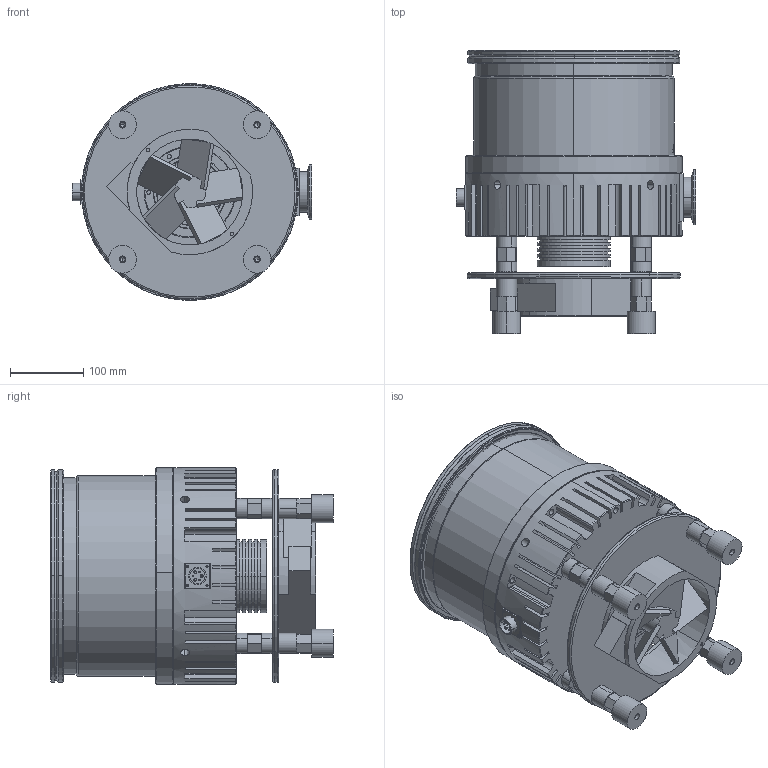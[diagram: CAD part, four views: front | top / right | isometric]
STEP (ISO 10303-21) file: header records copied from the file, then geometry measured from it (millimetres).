
FILE_DESCRIPTION (( 'STEP AP203' ), '1' );
FILE_NAME ('ISO-2000JFZ-00W.STEP', '2025-03-29T08:45:51', ( 'User' ), ( 'China' ), 'SwSTEP 2.0', 'SolidWorks 2016', '' );
FILE_SCHEMA (( 'CONFIG_CONTROL_DESIGN' ));
Length unit declared in the file: millimetre
Products named in the file (17): JTFB2000JZ-01-01-02T; JTFB2000JZ-01-01-01T; JTFB2000JZ-01-01-00T; JTFB1600J-18-02_1; JTFB2000JZ-01-00T; JTFB1300Z-04A_1; 阨郲; JTFB2000FZ-04; JTFB-2000F-02_1; JTFB-1600F-02_1; 1600掙虯蝶杶_1; 瑞圮A_1; JTFB1600-03_1; 萇埭諉芛_1; JTFB1300ZF-02; JTFB-1600F-01_1; ISO-2000JFZ-00W
Assembly tree (26 placements, depth 4):
  ISO-2000JFZ-00W
    JTFB2000JZ-01-00T
      JTFB2000JZ-01-01-00T
        JTFB2000JZ-01-01-02T
        JTFB2000JZ-01-01-01T
      JTFB1600J-18-02_1
    JTFB1300Z-04A_1
    阨郲  x2
    JTFB2000FZ-04
    JTFB-2000F-02_1  x4
    JTFB-1600F-02_1  x4
    1600掙虯蝶杶_1  x4
    瑞圮A_1
    JTFB1600-03_1
    萇埭諉芛_1
    JTFB1300ZF-02
    JTFB-1600F-01_1
Bounding box: 326.88 x 386.75 x 296 mm (x, y, z)
Volume: 17612804.3 mm3; surface area: 1187003.7 mm2
Topology: 24 solids, 24 shells, 1298 faces, 3332 edges, 2151 vertices
Faces by surface type: cylinder 518, plane 406, cone 205, bspline 141, torus 28
Entity records: 59592 total; most frequent: CARTESIAN_POINT 31559, ORIENTED_EDGE 5576, DIRECTION 5148, EDGE_CURVE 2788, AXIS2_PLACEMENT_3D 2076, VERTEX_POINT 1841, EDGE_LOOP 1303, CIRCLE 1110
